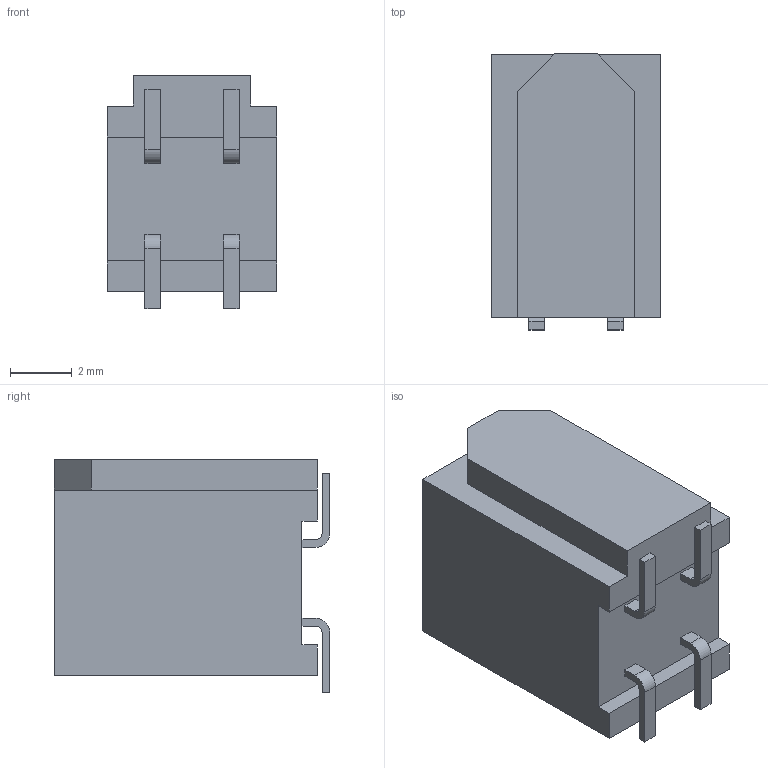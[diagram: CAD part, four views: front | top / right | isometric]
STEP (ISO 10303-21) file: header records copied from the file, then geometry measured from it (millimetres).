
FILE_DESCRIPTION (( 'STEP AP203' ), '1' );
FILE_NAME ('PM254-2-02-S-8.5-BP-XX(L8.9) (2.54双排 排母 贴片 带凸台 塑高8.5-HCTL).STEP', '2025-08-09T08:35:17', ( '' ), ( '' ), 'SwSTEP 2.0', 'SolidWorks 2025', '' );
FILE_SCHEMA (( 'CONFIG_CONTROL_DESIGN' ));
Length unit declared in the file: millimetre
Products named in the file (1): PM254-2-02-S-8.5-BP-XX(L8.9) (2.54双排 排母 贴片 带凸台 塑高8.5-HCTL)
Bounding box: 5.48 x 8.9 x 7.55 mm (x, y, z)
Volume: 297.9 mm3; surface area: 311.4 mm2
Topology: 1 solids, 1 shells, 72 faces, 186 edges, 124 vertices
Faces by surface type: plane 64, cylinder 8
Entity records: 2243 total; most frequent: CARTESIAN_POINT 383, ORIENTED_EDGE 372, DIRECTION 348, EDGE_CURVE 186, LINE 170, VECTOR 170, VERTEX_POINT 124, AXIS2_PLACEMENT_3D 89
